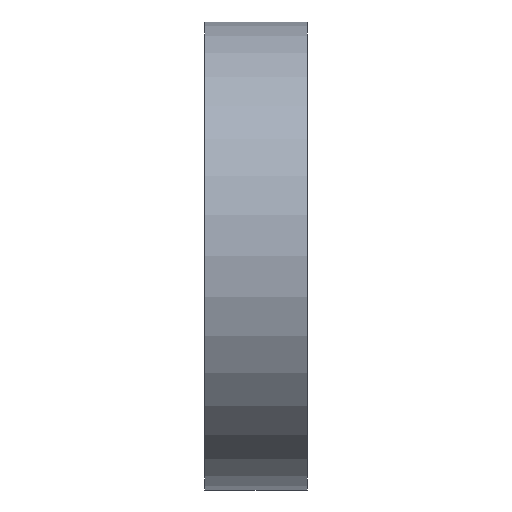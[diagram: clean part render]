
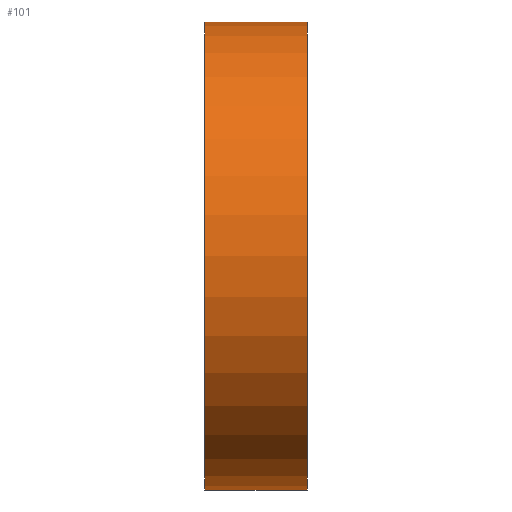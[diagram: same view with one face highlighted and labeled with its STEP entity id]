
A CAD part, front view. The second image highlights one B-rep face of the part: STEP entity #101.
In plain terms, the highlighted cylindrical face has radius 16 mm (diameter 32 mm), a full revolution.
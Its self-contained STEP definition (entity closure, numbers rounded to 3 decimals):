
#25=FACE_BOUND('',#48,.T.);
#33=FACE_OUTER_BOUND('',#47,.T.);
#47=EDGE_LOOP('',(#87));
#48=EDGE_LOOP('',(#88));
#57=CIRCLE('',#117,16.);
#58=CIRCLE('',#119,16.);
#65=VERTEX_POINT('',#174);
#66=VERTEX_POINT('',#177);
#73=EDGE_CURVE('',#65,#65,#57,.T.);
#74=EDGE_CURVE('',#66,#66,#58,.T.);
#87=ORIENTED_EDGE('',*,*,#73,.T.);
#88=ORIENTED_EDGE('',*,*,#74,.F.);
#94=CYLINDRICAL_SURFACE('',#118,16.);
#101=ADVANCED_FACE('',(#33,#25),#94,.T.);
#117=AXIS2_PLACEMENT_3D('',#175,#147,#148);
#118=AXIS2_PLACEMENT_3D('',#176,#149,#150);
#119=AXIS2_PLACEMENT_3D('',#178,#151,#152);
#147=DIRECTION('center_axis',(1.,0.,0.));
#148=DIRECTION('ref_axis',(0.,0.,-1.));
#149=DIRECTION('center_axis',(1.,0.,0.));
#150=DIRECTION('ref_axis',(0.,1.,0.));
#151=DIRECTION('center_axis',(1.,0.,0.));
#152=DIRECTION('ref_axis',(0.,0.,-1.));
#174=CARTESIAN_POINT('',(-7.,16.,0.));
#175=CARTESIAN_POINT('Origin',(-7.,0.,0.));
#176=CARTESIAN_POINT('Origin',(-3.5,0.,0.));
#177=CARTESIAN_POINT('',(0.,16.,0.));
#178=CARTESIAN_POINT('Origin',(0.,0.,
0.));
